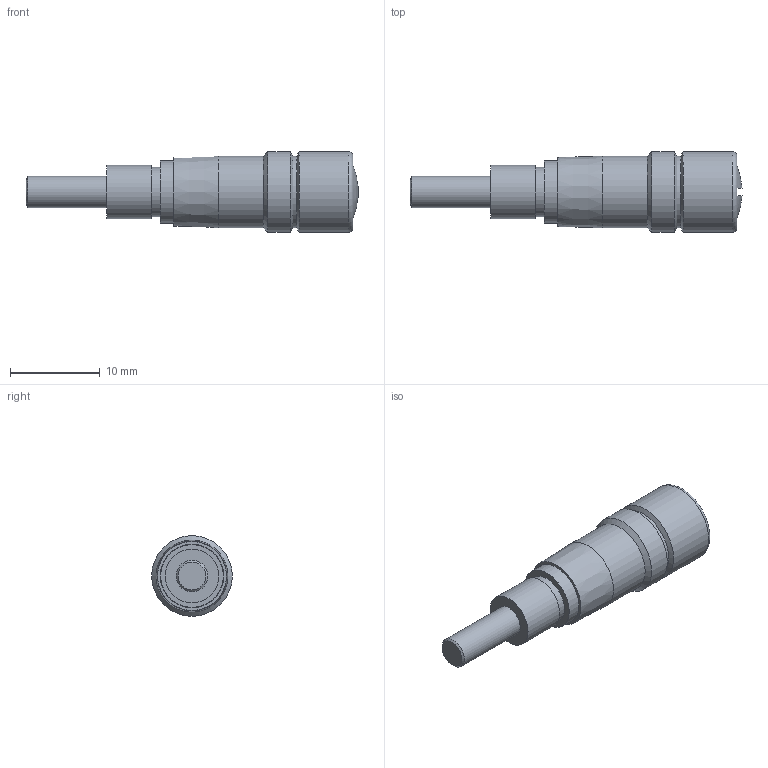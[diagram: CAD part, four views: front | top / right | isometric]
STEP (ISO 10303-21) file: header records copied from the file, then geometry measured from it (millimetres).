
FILE_DESCRIPTION((''),'2;1');
FILE_NAME('\\192.168.131.2\Tech_Server_Meka\Public1\3DDATA\2_OpticalHard\01_国内製品\5_Actuators\SHT1-6.5U(SHTS1-6.5U)\SHTS1-6.5.stp','2010-02-04T17:58:36',('okegawa'),(''),'Autodesk Inventor 2008','Autodesk Inventor 2008','');
FILE_SCHEMA(('AUTOMOTIVE_DESIGN { 1 0 10303 214 1 1 1 1 }'));
Length unit declared in the file: millimetre
Products named in the file (3): SHT1-6.5U-C1-S02; SHT1-6.5U-02-S01; SHT1-6.5U-C1-S01
Assembly tree (2 placements, depth 2):
  SHT1-6.5U-C1-S02
    SHT1-6.5U-02-S01
    SHT1-6.5U-C1-S01
Bounding box: 37.07 x 9 x 9 mm (x, y, z)
Volume: 1301.2 mm3; surface area: 2279.9 mm2
Topology: 2 solids, 3 shells, 52 faces, 93 edges, 57 vertices
Faces by surface type: cylinder 18, plane 18, cone 10, bspline 3, sphere 2, torus 1
Full cylindrical faces by diameter (mm): 2.6 x1, 3 x1, 3.5 x2, 4.5 x2, 5 x1, 5.5 x1, 6 x1, 6.5 x1, 7 x1, 7.1 x1, 8 x2, 9 x2
Entity records: 1197 total; most frequent: CARTESIAN_POINT 218, DIRECTION 218, ORIENTED_EDGE 116, AXIS2_PLACEMENT_3D 106, EDGE_LOOP 94, EDGE_CURVE 58, VERTEX_POINT 52, CIRCLE 52
